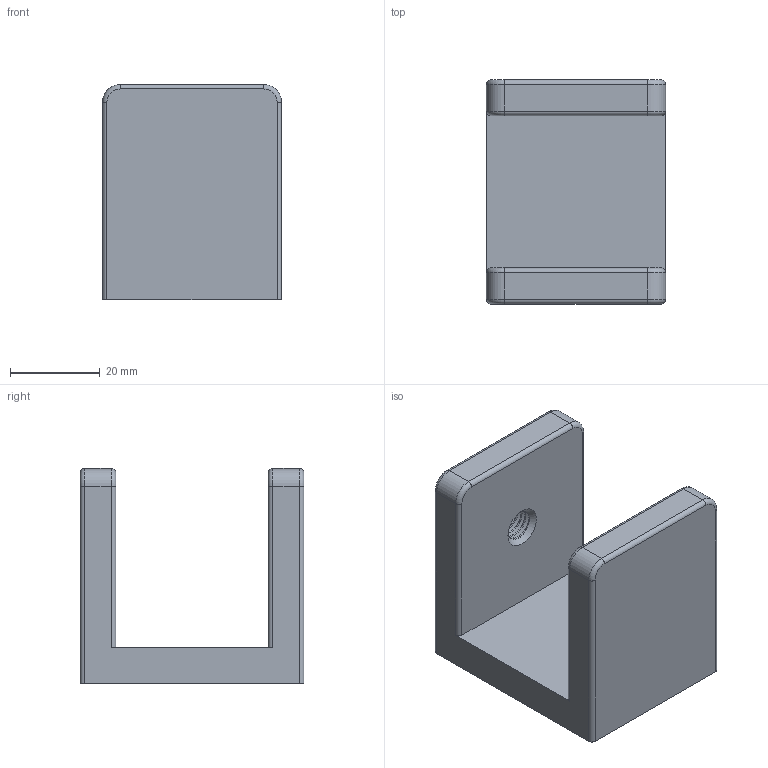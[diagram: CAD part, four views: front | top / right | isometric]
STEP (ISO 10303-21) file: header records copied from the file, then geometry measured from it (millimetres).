
FILE_DESCRIPTION(/* description */ (''),/* implementation_level */ '2;1');
FILE_NAME(/* name */ 'C:/Users/Stefano/Desktop/Thinkerlab/Progetti/Volume detector/VIce.step',/* time_stamp */ '2022-09-12T15:00:52+02:00',/* author */ (''),/* organization */ (''),/* preprocessor_version */ 'ST-DEVELOPER v19',/* originating_system */ 'Autodesk Translation Framework v11.7.0.108',/* authorisation */ '');
FILE_SCHEMA (('AUTOMOTIVE_DESIGN { 1 0 10303 214 3 1 1 }'));
Length unit declared in the file: millimetre
Products named in the file (1): VIce
Bounding box: 40 x 50 x 48 mm (x, y, z)
Volume: 40784.5 mm3; surface area: 13583.9 mm2
Topology: 1 solids, 1 shells, 236 faces, 673 edges, 439 vertices
Faces by surface type: cylinder 196, plane 16, bspline 10, torus 8, cone 6
Full cylindrical faces by diameter (mm): 2.529 x40, 3.086 x20, 6.779 x2, 8.17 x1
Entity records: 18192 total; most frequent: CARTESIAN_POINT 12742, ORIENTED_EDGE 1338, DIRECTION 818, EDGE_CURVE 669, VERTEX_POINT 439, B_SPLINE_CURVE_WITH_KNOTS 379, AXIS2_PLACEMENT_3D 301, EDGE_LOOP 242
